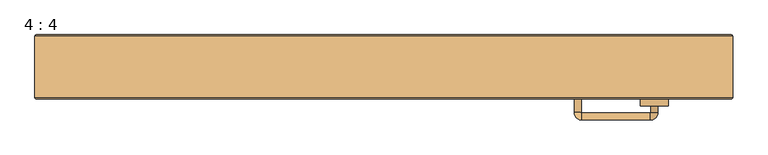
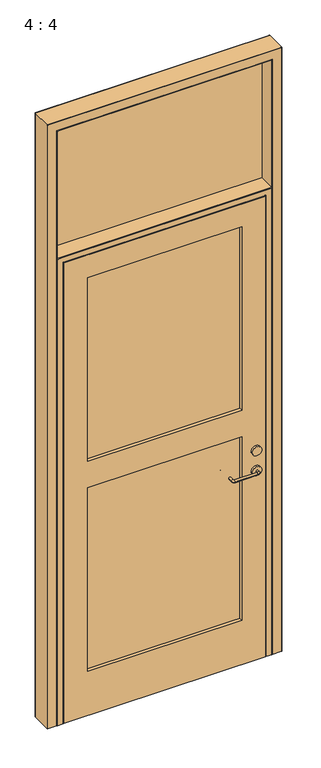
"""IFC4 building model written with IfcOpenShell, lengths in millimetres: door geometry, 4 : 4."""

from ifc_helpers import new_model, si_unit, point, frame, frame_2d, origin, place, context, project, spatial, polyline, circle_curve, ellipse_curve, trimmed, segment, composite_curve, outline, extrude, source, transform, mapped, element, save
from ifc_brep_helpers import plane_surface, cylinder_surface, revolved_surface, advanced_brep


def door_4_4_9f9d6679(model_context):
    return source(origin(), model_context, "Body", "SolidModel", [
        advanced_brep(
        [(272.9853306, 0.0, 855.0000042), (282.9853306, 0.0, 855.0000042), (282.9853306, 40.0, 855.0000042), (272.9853306, 40.0, 855.0000042), (392.9183216, 0.0, 855.0000042), (382.9183216, 0.0, 855.0000042), (382.9183216, -19.0, 855.0000042), (392.9183216, -19.0, 855.0000042), (381.9183216, -20.0, 855.0000042), (381.9183216, -30.0, 855.0000042), (283.9853306, -20.0, 855.0000042), (283.9853306, -30.0, 855.0000042), (282.9853306, -19.0, 855.0000042), (272.9853306, -19.0, 855.0000042), (282.9853306, 59.0, 855.0000042), (272.9853306, 59.0, 855.0000042), (283.9853306, 60.0, 855.0000042), (283.9853306, 70.0, 855.0000042), (381.9183216, 60.0, 855.0000042), (381.9183216, 70.0, 855.0000042), (382.9183216, 59.0, 855.0000042), (392.9183216, 59.0, 855.0000042)],
        [
            (0, 1, circle_curve(frame((277.9853306, 0.0, 855.0000042), z_axis=(0.0, 1.0, 0.0), x_axis=(-1.0, 0.0, 0.0)), 5.0)),
            (1, 0, circle_curve(frame((277.9853306, 0.0, 855.0000042), z_axis=(0.0, 1.0, 0.0), x_axis=(-1.0, 0.0, 0.0)), 5.0)),
            (2, 3, circle_curve(frame((277.9853306, 40.0, 855.0000042), z_axis=(0.0, -1.0, 0.0), x_axis=(-1.0, 0.0, 0.0)), 5.0)),
            (3, 2, circle_curve(frame((277.9853306, 40.0, 855.0000042), z_axis=(0.0, -1.0, 0.0), x_axis=(-1.0, 0.0, 0.0)), 5.0)),
            (4, 5, circle_curve(frame((387.9183216, 0.0, 855.0000042), z_axis=(0.0, -1.0, 0.0), x_axis=(1.0, 0.0, 0.0)), 5.0)),
            (5, 6),
            (6, 7, circle_curve(frame((387.9183216, -19.0, 855.0000042), z_axis=(0.0, 1.0, 0.0), x_axis=(1.0, 0.0, 0.0)), 5.0)),
            (7, 4),
            (5, 4, circle_curve(frame((387.9183216, 0.0, 855.0000042), z_axis=(0.0, -1.0, 0.0), x_axis=(1.0, 0.0, 0.0)), 5.0)),
            (7, 6, circle_curve(frame((387.9183216, -19.0, 855.0000042), z_axis=(0.0, 1.0, 0.0), x_axis=(1.0, 0.0, 0.0)), 5.0)),
            (6, 8, circle_curve(frame((381.9183216, -19.0, 855.0000042), z_axis=(0.0, 0.0, -1.0), x_axis=(1.0, 0.0, 0.0)), 1.0)),
            (8, 9, circle_curve(frame((381.9183216, -25.0, 855.0000042), z_axis=(1.0, 0.0, 0.0), x_axis=(0.0, -1.0, 0.0)), 5.0)),
            (9, 7, circle_curve(frame((381.9183216, -19.0, 855.0000042), z_axis=(0.0, 0.0, 1.0), x_axis=(1.0, 0.0, 0.0)), 11.0)),
            (9, 8, circle_curve(frame((381.9183216, -25.0, 855.0000042), z_axis=(1.0, 0.0, 0.0), x_axis=(0.0, -1.0, 0.0)), 5.0)),
            (8, 10),
            (10, 11, circle_curve(frame((283.9853306, -25.0, 855.0000042), z_axis=(1.0, 0.0, 0.0), x_axis=(0.0, -1.0, 0.0)), 5.0)),
            (11, 9),
            (11, 10, circle_curve(frame((283.9853306, -25.0, 855.0000042), z_axis=(1.0, 0.0, 0.0), x_axis=(0.0, -1.0, 0.0)), 5.0)),
            (10, 12, circle_curve(frame((283.9853306, -19.0, 855.0000042), z_axis=(0.0, 0.0, -1.0), x_axis=(0.0, -1.0, 0.0)), 1.0)),
            (12, 13, circle_curve(frame((277.9853306, -19.0, 855.0000042), z_axis=(0.0, -1.0, 0.0), x_axis=(-1.0, 0.0, 0.0)), 5.0)),
            (13, 11, circle_curve(frame((283.9853306, -19.0, 855.0000042), z_axis=(0.0, 0.0, 1.0), x_axis=(0.0, -1.0, 0.0)), 11.0)),
            (13, 12, circle_curve(frame((277.9853306, -19.0, 855.0000042), z_axis=(0.0, -1.0, 0.0), x_axis=(-1.0, 0.0, 0.0)), 5.0)),
            (12, 1),
            (0, 13),
            (14, 15, circle_curve(frame((277.9853306, 59.0, 855.0000042), z_axis=(0.0, -1.0, 0.0), x_axis=(-1.0, 0.0, 0.0)), 5.0)),
            (15, 3),
            (2, 14),
            (15, 14, circle_curve(frame((277.9853306, 59.0, 855.0000042), z_axis=(0.0, -1.0, 0.0), x_axis=(-1.0, 0.0, 0.0)), 5.0)),
            (14, 16, circle_curve(frame((283.9853306, 59.0, 855.0000042), z_axis=(0.0, 0.0, -1.0), x_axis=(-1.0, 0.0, 0.0)), 1.0)),
            (16, 17, circle_curve(frame((283.9853306, 65.0, 855.0000042), z_axis=(-1.0, 0.0, 0.0), x_axis=(0.0, 1.0, 0.0)), 5.0)),
            (17, 15, circle_curve(frame((283.9853306, 59.0, 855.0000042), z_axis=(0.0, 0.0, 1.0), x_axis=(-1.0, 0.0, 0.0)), 11.0)),
            (17, 16, circle_curve(frame((283.9853306, 65.0, 855.0000042), z_axis=(-1.0, 0.0, 0.0), x_axis=(0.0, 1.0, 0.0)), 5.0)),
            (16, 18),
            (18, 19, circle_curve(frame((381.9183216, 65.0, 855.0000042), z_axis=(-1.0, 0.0, 0.0), x_axis=(0.0, 1.0, 0.0)), 5.0)),
            (19, 17),
            (19, 18, circle_curve(frame((381.9183216, 65.0, 855.0000042), z_axis=(-1.0, 0.0, 0.0), x_axis=(0.0, 1.0, 0.0)), 5.0)),
            (18, 20, circle_curve(frame((381.9183216, 59.0, 855.0000042), z_axis=(0.0, 0.0, -1.0), x_axis=(0.0, 1.0, 0.0)), 1.0)),
            (20, 21, circle_curve(frame((387.9183216, 59.0, 855.0000042), z_axis=(0.0, 1.0, 0.0), x_axis=(1.0, 0.0, 0.0)), 5.0)),
            (21, 19, circle_curve(frame((381.9183216, 59.0, 855.0000042), z_axis=(0.0, 0.0, 1.0), x_axis=(0.0, 1.0, 0.0)), 11.0)),
            (21, 20, circle_curve(frame((387.9183216, 59.0, 855.0000042), z_axis=(0.0, 1.0, 0.0), x_axis=(1.0, 0.0, 0.0)), 5.0)),
            (4, 21),
            (20, 5),
        ],
        [
            plane_surface(frame((428.0, 0.0, 0.0), z_axis=(0.0, 1.0, 0.0), x_axis=(0.0, 0.0, 1.0))),
            plane_surface(frame((428.0, 40.0, 0.0), z_axis=(0.0, -1.0, 0.0), x_axis=(0.0, 0.0, 1.0))),
            cylinder_surface(frame((387.9183216, 0.0, 855.0000042), z_axis=(0.0, 1.0, 0.0), x_axis=(1.0, 0.0, 0.0)), 5.0),
            revolved_surface(trimmed(ellipse_curve(frame((387.9183216, -19.0, 855.0000042), z_axis=(0.0, 1.0, 0.0), x_axis=(1.0, 0.0, 0.0)), 5.0, 5.0), [point((382.9183216, -19.0, 855.0000042))], [point((392.9183216, -19.0, 855.0000042))], True, "CARTESIAN"), (381.9183216, -19.0, 0.0), (0.0, 0.0, -1.0)),
            revolved_surface(trimmed(ellipse_curve(frame((387.9183216, -19.0, 855.0000042), z_axis=(0.0, 1.0, 0.0), x_axis=(1.0, 0.0, 0.0)), 5.0, 5.0), [point((392.9183216, -19.0, 855.0000042))], [point((382.9183216, -19.0, 855.0000042))], True, "CARTESIAN"), (381.9183216, -19.0, 0.0), (0.0, 0.0, -1.0)),
            cylinder_surface(frame((381.9183216, -25.0, 855.0000042), z_axis=(1.0, 0.0, 0.0), x_axis=(0.0, -1.0, 0.0)), 5.0),
            revolved_surface(trimmed(ellipse_curve(frame((283.9853306, -25.0, 855.0000042), z_axis=(1.0, 0.0, 0.0), x_axis=(0.0, -1.0, 0.0)), 5.0, 5.0), [point((283.9853306, -20.0, 855.0000042))], [point((283.9853306, -30.0, 855.0000042))], True, "CARTESIAN"), (283.9853306, -19.0, 0.0), (0.0, 0.0, -1.0)),
            revolved_surface(trimmed(ellipse_curve(frame((283.9853306, -25.0, 855.0000042), z_axis=(1.0, 0.0, 0.0), x_axis=(0.0, -1.0, 0.0)), 5.0, 5.0), [point((283.9853306, -30.0, 855.0000042))], [point((283.9853306, -20.0, 855.0000042))], True, "CARTESIAN"), (283.9853306, -19.0, 0.0), (0.0, 0.0, -1.0)),
            cylinder_surface(frame((277.9853306, -19.0, 855.0000042), z_axis=(0.0, -1.0, 0.0), x_axis=(-1.0, 0.0, 0.0)), 5.0),
            cylinder_surface(frame((277.9853306, 0.0, 855.0000042), z_axis=(0.0, -1.0, 0.0), x_axis=(-1.0, 0.0, 0.0)), 5.0),
            revolved_surface(trimmed(ellipse_curve(frame((277.9853306, 59.0, 855.0000042), z_axis=(0.0, -1.0, 0.0), x_axis=(-1.0, 0.0, 0.0)), 5.0, 5.0), [point((282.9853306, 59.0, 855.0000042))], [point((272.9853306, 59.0, 855.0000042))], True, "CARTESIAN"), (283.9853306, 59.0, 0.0), (0.0, 0.0, -1.0)),
            revolved_surface(trimmed(ellipse_curve(frame((277.9853306, 59.0, 855.0000042), z_axis=(0.0, -1.0, 0.0), x_axis=(-1.0, 0.0, 0.0)), 5.0, 5.0), [point((272.9853306, 59.0, 855.0000042))], [point((282.9853306, 59.0, 855.0000042))], True, "CARTESIAN"), (283.9853306, 59.0, 0.0), (0.0, 0.0, -1.0)),
            cylinder_surface(frame((283.9853306, 65.0, 855.0000042), z_axis=(-1.0, 0.0, 0.0), x_axis=(0.0, 1.0, 0.0)), 5.0),
            revolved_surface(trimmed(ellipse_curve(frame((381.9183216, 65.0, 855.0000042), z_axis=(-1.0, 0.0, 0.0), x_axis=(0.0, 1.0, 0.0)), 5.0, 5.0), [point((381.9183216, 60.0, 855.0000042))], [point((381.9183216, 70.0, 855.0000042))], True, "CARTESIAN"), (381.9183216, 59.0, 0.0), (0.0, 0.0, -1.0)),
            revolved_surface(trimmed(ellipse_curve(frame((381.9183216, 65.0, 855.0000042), z_axis=(-1.0, 0.0, 0.0), x_axis=(0.0, 1.0, 0.0)), 5.0, 5.0), [point((381.9183216, 70.0, 855.0000042))], [point((381.9183216, 60.0, 855.0000042))], True, "CARTESIAN"), (381.9183216, 59.0, 0.0), (0.0, 0.0, -1.0)),
            cylinder_surface(frame((387.9183216, 59.0, 855.0000042), z_axis=(0.0, 1.0, 0.0), x_axis=(1.0, 0.0, 0.0)), 5.0),
        ],
        [
            (0, [[1, 2]]),
            (1, [[3, 4]]),
            (2, [[5, 6, 7, 8]]),
            (2, [[-6, 9, -8, 10]]),
            (3, [[-7, 11, 12, 13]]),
            (4, [[-10, -13, 14, -11]]),
            (5, [[-12, 15, 16, 17]]),
            (5, [[-14, -17, 18, -15]]),
            (6, [[-16, 19, 20, 21]]),
            (7, [[-18, -21, 22, -19]]),
            (8, [[-20, 23, -1, 24]]),
            (8, [[-22, -24, -2, -23]]),
            (9, [[25, 26, -3, 27]]),
            (9, [[28, -27, -4, -26]]),
            (10, [[-25, 29, 30, 31]]),
            (11, [[-28, -31, 32, -29]]),
            (12, [[-30, 33, 34, 35]]),
            (12, [[-32, -35, 36, -33]]),
            (13, [[-34, 37, 38, 39]]),
            (14, [[-36, -39, 40, -37]]),
            (15, [[-5, 41, -38, 42]]),
            (15, [[-9, -42, -40, -41]]),
        ],
    ),
        extrude(outline(polyline([(327.9573841, 14.0), (-328.0426159, 14.0), (-328.0426159, 26.0), (327.9573841, 26.0), (327.9573841, 14.0)])), frame((0.0, 0.0, 1145.0), z_axis=(0.0, 0.0, 1.0), x_axis=(1.0, 0.0, 0.0)), (0.0, 0.0, 1.0), 825.0),
        extrude(outline(polyline([(327.9573841, 14.0), (-328.0426159, 14.0), (-328.0426159, 26.0), (327.9573841, 26.0), (327.9573841, 14.0)])), frame((0.0, 0.0, 200.0), z_axis=(0.0, 0.0, 1.0), x_axis=(1.0, 0.0, 0.0)), (0.0, 0.0, 1.0), 825.0),
        extrude(outline(polyline([(2072.0, 427.9573841), (2072.0, -428.0), (0.0, -428.0), (0.0, 427.9573841), (2072.0, 427.9573841)]), holes=[polyline([(1970.0, -328.0426159), (1970.0, 327.9573841), (1145.0, 327.9573841), (1145.0, -328.0426159), (1970.0, -328.0426159)]), polyline([(200.0, -328.0426159), (1025.0, -328.0426159), (1025.0, 327.9573841), (200.0, 327.9573841), (200.0, -328.0426159)])]), frame((0.0, 0.0, 0.0), z_axis=(0.0, 1.0, 0.0), x_axis=(0.0, 0.0, 1.0)), (0.0, 0.0, 1.0), 40.0),
        extrude(outline(polyline([(-458.0, 85.5), (458.0, 85.5), (458.0, 74.5), (-458.0, 74.5), (-458.0, 85.5)])), frame((0.0, 0.0, 2100.0), z_axis=(0.0, 0.0, 1.0), x_axis=(1.0, 0.0, 0.0)), (0.0, 0.0, 1.0), 574.0),
        advanced_brep(
        [(498.0, 0.0, 0.0), (460.0, 0.0, 0.0), (458.0, 2.0, 0.0), (458.0, 90.0, 0.0), (460.0, 92.0, 0.0), (498.0, 92.0, 0.0), (500.0, 90.0, 0.0), (500.0, 2.0, 0.0), (498.0, 0.0, 2714.0), (-498.0, 0.0, 2714.0), (-498.0, 0.0, 0.0), (-460.0, 0.0, 0.0), (-460.0, 0.0, 2676.0), (460.0, 0.0, 2676.0), (458.0, 2.0, 2674.0), (458.0, 90.0, 2674.0), (460.0, 92.0, 2676.0), (-460.0, 92.0, 2676.0), (-460.0, 92.0, 0.0), (-498.0, 92.0, 0.0), (-498.0, 92.0, 2714.0), (498.0, 92.0, 2714.0), (500.0, 90.0, 2716.0), (500.0, 2.0, 2716.0), (-458.0, 2.0, 2674.0), (-458.0, 90.0, 2674.0), (-500.0, 90.0, 2716.0), (-500.0, 2.0, 2716.0), (-500.0, 2.0, 0.0), (-500.0, 90.0, 0.0), (-458.0, 90.0, 0.0), (-458.0, 2.0, 0.0)],
        [
            (0, 1),
            (1, 2, circle_curve(frame((460.0, 2.0, 0.0), z_axis=(0.0, 0.0, -1.0), x_axis=(1.0, 0.0, 0.0)), 2.0)),
            (2, 3),
            (3, 4, circle_curve(frame((460.0, 90.0, 0.0), z_axis=(0.0, 0.0, -1.0), x_axis=(1.0, 0.0, 0.0)), 2.0)),
            (4, 5),
            (5, 6, circle_curve(frame((498.0, 90.0, 0.0), z_axis=(0.0, 0.0, -1.0), x_axis=(1.0, 0.0, 0.0)), 2.0)),
            (6, 7),
            (7, 0, circle_curve(frame((498.0, 2.0, 0.0), z_axis=(0.0, 0.0, -1.0), x_axis=(1.0, 0.0, 0.0)), 2.0)),
            (0, 8),
            (8, 9),
            (9, 10),
            (10, 11),
            (11, 12),
            (12, 13),
            (13, 1),
            (2, 14),
            (14, 15),
            (15, 3),
            (4, 16),
            (16, 17),
            (17, 18),
            (18, 19),
            (19, 20),
            (20, 21),
            (21, 5),
            (6, 22),
            (22, 23),
            (23, 7),
            (14, 24),
            (24, 25),
            (25, 15),
            (22, 26),
            (26, 27),
            (27, 23),
            (10, 28, circle_curve(frame((-498.0, 2.0, 0.0), z_axis=(0.0, 0.0, -1.0), x_axis=(-1.0, 0.0, 0.0)), 2.0)),
            (28, 29),
            (29, 19, circle_curve(frame((-498.0, 90.0, 0.0), z_axis=(0.0, 0.0, -1.0), x_axis=(-1.0, 0.0, 0.0)), 2.0)),
            (18, 30, circle_curve(frame((-460.0, 90.0, 0.0), z_axis=(0.0, 0.0, -1.0), x_axis=(-1.0, 0.0, 0.0)), 2.0)),
            (30, 31),
            (31, 11, circle_curve(frame((-460.0, 2.0, 0.0), z_axis=(0.0, 0.0, -1.0), x_axis=(-1.0, 0.0, 0.0)), 2.0)),
            (24, 31),
            (30, 25),
            (26, 29),
            (28, 27),
            (13, 14, ellipse_curve(frame((460.0, 2.0, 2676.0), z_axis=(0.7071067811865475, 0.0, -0.7071067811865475), x_axis=(-0.7071067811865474, 0.0, -0.7071067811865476)), 2.8284271, 2.0)),
            (15, 16, ellipse_curve(frame((460.0, 90.0, 2676.0), z_axis=(0.7071067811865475, 0.0, -0.7071067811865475), x_axis=(-0.7071067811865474, 0.0, -0.7071067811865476)), 2.8284271, 2.0)),
            (21, 22, ellipse_curve(frame((498.0, 90.0, 2714.0), z_axis=(0.7071067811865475, 0.0, -0.7071067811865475), x_axis=(-0.7071067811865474, 0.0, -0.7071067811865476)), 2.8284271, 2.0)),
            (23, 8, ellipse_curve(frame((498.0, 2.0, 2714.0), z_axis=(0.7071067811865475, 0.0, -0.7071067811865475), x_axis=(-0.7071067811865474, 0.0, -0.7071067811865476)), 2.8284271, 2.0)),
            (12, 24, ellipse_curve(frame((-460.0, 2.0, 2676.0), z_axis=(0.7071067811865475, 0.0, 0.7071067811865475), x_axis=(0.7071067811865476, 0.0, -0.7071067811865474)), 2.8284271, 2.0)),
            (25, 17, ellipse_curve(frame((-460.0, 90.0, 2676.0), z_axis=(0.7071067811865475, 0.0, 0.7071067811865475), x_axis=(0.7071067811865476, 0.0, -0.7071067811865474)), 2.8284271, 2.0)),
            (20, 26, ellipse_curve(frame((-498.0, 90.0, 2714.0), z_axis=(0.7071067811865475, 0.0, 0.7071067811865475), x_axis=(0.7071067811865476, 0.0, -0.7071067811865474)), 2.8284271, 2.0)),
            (27, 9, ellipse_curve(frame((-498.0, 2.0, 2714.0), z_axis=(0.7071067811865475, 0.0, 0.7071067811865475), x_axis=(0.7071067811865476, 0.0, -0.7071067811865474)), 2.8284271, 2.0)),
        ],
        [
            plane_surface(frame((500.0, 0.0, 0.0), z_axis=(0.0, 0.0, -1.0), x_axis=(0.0, 1.0, 0.0))),
            plane_surface(frame((498.0, 0.0, 0.0), z_axis=(0.0, -1.0, 0.0), x_axis=(0.0, 0.0, 1.0))),
            plane_surface(frame((458.0, 2.0, 0.0), z_axis=(-1.0, 0.0, 0.0), x_axis=(0.0, 0.0, 1.0))),
            plane_surface(frame((460.0, 92.0, 0.0), z_axis=(0.0, 1.0, 0.0), x_axis=(0.0, 0.0, 1.0))),
            plane_surface(frame((500.0, 90.0, 0.0), z_axis=(1.0, 0.0, 0.0), x_axis=(0.0, 0.0, 1.0))),
            plane_surface(frame((458.0, 2.0, 2674.0), z_axis=(0.0, 0.0, -1.0), x_axis=(-1.0, 0.0, 0.0))),
            plane_surface(frame((500.0, 90.0, 2716.0), z_axis=(0.0, 0.0, 1.0), x_axis=(-1.0, 0.0, 0.0))),
            plane_surface(frame((-500.0, 0.0, 0.0), z_axis=(0.0, 0.0, -1.0), x_axis=(0.0, 1.0, 0.0))),
            plane_surface(frame((-458.0, 2.0, 2674.0), z_axis=(1.0, 0.0, 0.0), x_axis=(0.0, 0.0, -1.0))),
            plane_surface(frame((-500.0, 90.0, 2716.0), z_axis=(-1.0, 0.0, 0.0), x_axis=(0.0, 0.0, -1.0))),
            cylinder_surface(frame((460.0, 2.0, 0.0), z_axis=(0.0, 0.0, -1.0), x_axis=(1.0, 0.0, 0.0)), 2.0),
            cylinder_surface(frame((460.0, 90.0, 0.0), z_axis=(0.0, 0.0, -1.0), x_axis=(1.0, 0.0, 0.0)), 2.0),
            cylinder_surface(frame((498.0, 90.0, 0.0), z_axis=(0.0, 0.0, -1.0), x_axis=(1.0, 0.0, 0.0)), 2.0),
            cylinder_surface(frame((498.0, 2.0, 0.0), z_axis=(0.0, 0.0, -1.0), x_axis=(1.0, 0.0, 0.0)), 2.0),
            cylinder_surface(frame((500.0, 2.0, 2676.0), z_axis=(1.0, 0.0, 0.0), x_axis=(0.0, 0.0, 1.0)), 2.0),
            cylinder_surface(frame((500.0, 90.0, 2676.0), z_axis=(1.0, 0.0, 0.0), x_axis=(0.0, 0.0, 1.0)), 2.0),
            cylinder_surface(frame((500.0, 90.0, 2714.0), z_axis=(1.0, 0.0, 0.0), x_axis=(0.0, 0.0, 1.0)), 2.0),
            cylinder_surface(frame((500.0, 2.0, 2714.0), z_axis=(1.0, 0.0, 0.0), x_axis=(0.0, 0.0, 1.0)), 2.0),
            cylinder_surface(frame((-460.0, 2.0, 2716.0), z_axis=(0.0, 0.0, 1.0), x_axis=(-1.0, 0.0, 0.0)), 2.0),
            cylinder_surface(frame((-460.0, 90.0, 2716.0), z_axis=(0.0, 0.0, 1.0), x_axis=(-1.0, 0.0, 0.0)), 2.0),
            cylinder_surface(frame((-498.0, 90.0, 2716.0), z_axis=(0.0, 0.0, 1.0), x_axis=(-1.0, 0.0, 0.0)), 2.0),
            cylinder_surface(frame((-498.0, 2.0, 2716.0), z_axis=(0.0, 0.0, 1.0), x_axis=(-1.0, 0.0, 0.0)), 2.0),
        ],
        [
            (0, [[1, 2, 3, 4, 5, 6, 7, 8]]),
            (1, [[-1, 9, 10, 11, 12, 13, 14, 15]]),
            (2, [[-3, 16, 17, 18]]),
            (3, [[-5, 19, 20, 21, 22, 23, 24, 25]]),
            (4, [[-7, 26, 27, 28]]),
            (5, [[-17, 29, 30, 31]]),
            (6, [[-27, 32, 33, 34]]),
            (7, [[35, 36, 37, -22, 38, 39, 40, -12]]),
            (8, [[-30, 41, -39, 42]]),
            (9, [[-33, 43, -36, 44]]),
            (10, [[-2, -15, 45, -16]]),
            (11, [[-4, -18, 46, -19]]),
            (12, [[-6, -25, 47, -26]]),
            (13, [[-8, -28, 48, -9]]),
            (14, [[-45, -14, 49, -29]]),
            (15, [[-46, -31, 50, -20]]),
            (16, [[-47, -24, 51, -32]]),
            (17, [[-48, -34, 52, -10]]),
            (18, [[-49, -13, -40, -41]]),
            (19, [[-50, -42, -38, -21]]),
            (20, [[-51, -23, -37, -43]]),
            (21, [[-52, -44, -35, -11]]),
        ],
    ),
        advanced_brep(
        [(-456.0, 92.0, 0.0), (-433.0, 92.0, 0.0), (-431.0, 90.0, 0.0), (-431.0, 87.0, 0.0), (-421.0361518, 87.0, 0.0), (-419.0361518, 85.0, 0.0), (-419.0, 45.0, 0.0), (-421.0361518, 43.0, 0.0), (-431.0, 43.0, 0.0), (-431.0, 2.0, 0.0), (-433.0, 0.0, 0.0), (-456.0, 0.0, 0.0), (-458.0, 2.0, 0.0), (-458.0, 90.0, 0.0), (-456.0, 92.0, 2098.0), (456.0, 92.0, 2098.0), (456.0, 92.0, 0.0), (433.0, 92.0, 0.0), (433.0, 92.0, 2075.0), (-433.0, 92.0, 2075.0), (-431.0, 90.0, 2073.0), (-431.0, 87.0, 2073.0), (431.0, 87.0, 2073.0), (431.0, 87.0, 0.0), (421.0361518, 87.0, 0.0), (421.0361518, 87.0, 2063.0361518), (-421.0361518, 87.0, 2063.0361518), (-419.0361518, 85.0, 2061.0361518), (-419.0, 45.0, 2061.0), (-421.0361518, 43.0, 2063.0361518), (421.0361518, 43.0, 2063.0361518), (421.0361518, 43.0, 0.0), (431.0, 43.0, 0.0), (431.0, 43.0, 2073.0), (-431.0, 43.0, 2073.0), (-431.0, 2.0, 2073.0), (-433.0, 0.0, 2075.0), (433.0, 0.0, 2075.0), (433.0, 0.0, 0.0), (456.0, 0.0, 0.0), (456.0, 0.0, 2098.0), (-456.0, 0.0, 2098.0), (-458.0, 2.0, 2100.0), (-458.0, 90.0, 2100.0), (431.0, 90.0, 2073.0), (419.0361518, 85.0, 2061.0361518), (419.0, 45.0, 2061.0), (431.0, 2.0, 2073.0), (458.0, 2.0, 2100.0), (458.0, 90.0, 2100.0), (458.0, 90.0, 0.0), (458.0, 2.0, 0.0), (431.0, 2.0, 0.0), (419.0361518, 45.0, 0.0), (419.0, 85.0, 0.0), (431.0, 90.0, 0.0)],
        [
            (0, 1),
            (1, 2, circle_curve(frame((-433.0, 90.0, 0.0), z_axis=(0.0, 0.0, -1.0), x_axis=(0.0, 1.0, 0.0)), 2.0)),
            (2, 3),
            (3, 4),
            (4, 5, circle_curve(frame((-421.0361518, 85.0, 0.0), z_axis=(0.0, 0.0, -1.0), x_axis=(0.0, 1.0, 0.0)), 2.0)),
            (5, 6),
            (6, 7, circle_curve(frame((-421.0361518, 45.0, 0.0), z_axis=(0.0, 0.0, -1.0), x_axis=(0.0, 1.0, 0.0)), 2.0)),
            (7, 8),
            (8, 9),
            (9, 10, circle_curve(frame((-433.0, 2.0, 0.0), z_axis=(0.0, 0.0, -1.0), x_axis=(0.0, 1.0, 0.0)), 2.0)),
            (10, 11),
            (11, 12, circle_curve(frame((-456.0, 2.0, 0.0), z_axis=(0.0, 0.0, -1.0), x_axis=(0.0, 1.0, 0.0)), 2.0)),
            (12, 13),
            (13, 0, circle_curve(frame((-456.0, 90.0, 0.0), z_axis=(0.0, 0.0, -1.0), x_axis=(0.0, 1.0, 0.0)), 2.0)),
            (0, 14),
            (14, 15),
            (15, 16),
            (16, 17),
            (17, 18),
            (18, 19),
            (19, 1),
            (19, 20, ellipse_curve(frame((-433.0, 90.0, 2075.0), z_axis=(-0.7071067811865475, 0.0, -0.7071067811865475), x_axis=(0.7071067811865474, 0.0, -0.7071067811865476)), 2.8284271, 2.0)),
            (20, 2),
            (20, 21),
            (21, 3),
            (21, 22),
            (22, 23),
            (23, 24),
            (24, 25),
            (25, 26),
            (26, 4),
            (26, 27, ellipse_curve(frame((-421.0361518, 85.0, 2063.0361518), z_axis=(-0.7071067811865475, 0.0, -0.7071067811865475), x_axis=(0.7071067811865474, 0.0, -0.7071067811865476)), 2.8284271, 2.0)),
            (27, 5),
            (27, 28),
            (28, 6),
            (28, 29, ellipse_curve(frame((-421.0361518, 45.0, 2063.0361518), z_axis=(-0.7071067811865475, 0.0, -0.7071067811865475), x_axis=(0.7071067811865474, 0.0, -0.7071067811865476)), 2.8284271, 2.0)),
            (29, 7),
            (29, 30),
            (30, 31),
            (31, 32),
            (32, 33),
            (33, 34),
            (34, 8),
            (34, 35),
            (35, 9),
            (35, 36, ellipse_curve(frame((-433.0, 2.0, 2075.0), z_axis=(-0.7071067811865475, 0.0, -0.7071067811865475), x_axis=(0.7071067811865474, 0.0, -0.7071067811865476)), 2.8284271, 2.0)),
            (36, 10),
            (36, 37),
            (37, 38),
            (38, 39),
            (39, 40),
            (40, 41),
            (41, 11),
            (41, 42, ellipse_curve(frame((-456.0, 2.0, 2098.0), z_axis=(-0.7071067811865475, 0.0, -0.7071067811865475), x_axis=(0.7071067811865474, 0.0, -0.7071067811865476)), 2.8284271, 2.0)),
            (42, 12),
            (42, 43),
            (43, 13),
            (43, 14, ellipse_curve(frame((-456.0, 90.0, 2098.0), z_axis=(-0.7071067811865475, 0.0, -0.7071067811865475), x_axis=(0.7071067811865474, 0.0, -0.7071067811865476)), 2.8284271, 2.0)),
            (18, 44, ellipse_curve(frame((433.0, 90.0, 2075.0), z_axis=(-0.7071067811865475, 0.0, 0.7071067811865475), x_axis=(-0.7071067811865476, 0.0, -0.7071067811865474)), 2.8284271, 2.0)),
            (44, 20),
            (44, 22),
            (25, 45, ellipse_curve(frame((421.0361518, 85.0, 2063.0361518), z_axis=(-0.7071067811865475, 0.0, 0.7071067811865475), x_axis=(-0.7071067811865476, 0.0, -0.7071067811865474)), 2.8284271, 2.0)),
            (45, 27),
            (45, 46),
            (46, 28),
            (46, 30, ellipse_curve(frame((421.0361518, 45.0, 2063.0361518), z_axis=(-0.7071067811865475, 0.0, 0.7071067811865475), x_axis=(-0.7071067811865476, 0.0, -0.7071067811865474)), 2.8284271, 2.0)),
            (33, 47),
            (47, 35),
            (47, 37, ellipse_curve(frame((433.0, 2.0, 2075.0), z_axis=(-0.7071067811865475, 0.0, 0.7071067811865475), x_axis=(-0.7071067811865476, 0.0, -0.7071067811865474)), 2.8284271, 2.0)),
            (40, 48, ellipse_curve(frame((456.0, 2.0, 2098.0), z_axis=(-0.7071067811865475, 0.0, 0.7071067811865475), x_axis=(-0.7071067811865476, 0.0, -0.7071067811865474)), 2.8284271, 2.0)),
            (48, 42),
            (48, 49),
            (49, 43),
            (49, 15, ellipse_curve(frame((456.0, 90.0, 2098.0), z_axis=(-0.7071067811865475, 0.0, 0.7071067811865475), x_axis=(-0.7071067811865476, 0.0, -0.7071067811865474)), 2.8284271, 2.0)),
            (16, 50, circle_curve(frame((456.0, 90.0, 0.0), z_axis=(0.0, 0.0, -1.0), x_axis=(0.0, 1.0, 0.0)), 2.0)),
            (50, 51),
            (51, 39, circle_curve(frame((456.0, 2.0, 0.0), z_axis=(0.0, 0.0, -1.0), x_axis=(0.0, 1.0, 0.0)), 2.0)),
            (38, 52, circle_curve(frame((433.0, 2.0, 0.0), z_axis=(0.0, 0.0, -1.0), x_axis=(0.0, 1.0, 0.0)), 2.0)),
            (52, 32),
            (31, 53, circle_curve(frame((421.0361518, 45.0, 0.0), z_axis=(0.0, 0.0, -1.0), x_axis=(0.0, 1.0, 0.0)), 2.0)),
            (53, 54),
            (54, 24, circle_curve(frame((421.0361518, 85.0, 0.0), z_axis=(0.0, 0.0, -1.0), x_axis=(0.0, 1.0, 0.0)), 2.0)),
            (23, 55),
            (55, 17, circle_curve(frame((433.0, 90.0, 0.0), z_axis=(0.0, 0.0, -1.0), x_axis=(0.0, 1.0, 0.0)), 2.0)),
            (55, 44),
            (54, 45),
            (53, 46),
            (52, 47),
            (51, 48),
            (50, 49),
        ],
        [
            plane_surface(frame((-458.0, 0.0, 0.0), z_axis=(0.0, 0.0, -1.0), x_axis=(0.0, 1.0, 0.0))),
            plane_surface(frame((-456.0, 92.0, 0.0), z_axis=(0.0, 1.0, 0.0), x_axis=(0.0, 0.0, 1.0))),
            cylinder_surface(frame((-433.0, 90.0, 0.0), z_axis=(0.0, 0.0, -1.0), x_axis=(0.0, 1.0, 0.0)), 2.0),
            plane_surface(frame((-431.0, 90.0, 0.0), z_axis=(1.0, 0.0, 0.0), x_axis=(0.0, 0.0, 1.0))),
            plane_surface(frame((-431.0, 87.0, 0.0), z_axis=(0.0, 1.0, 0.0), x_axis=(0.0, 0.0, 1.0))),
            cylinder_surface(frame((-421.0361518, 85.0, 0.0), z_axis=(0.0, 0.0, -1.0), x_axis=(0.0, 1.0, 0.0)), 2.0),
            plane_surface(frame((-419.0, 85.0, 0.0), z_axis=(1.0, 0.0, 0.0), x_axis=(0.0, 0.0, 1.0))),
            cylinder_surface(frame((-421.0361518, 45.0, 0.0), z_axis=(0.0, 0.0, -1.0), x_axis=(0.0, 1.0, 0.0)), 2.0),
            plane_surface(frame((-421.0361518, 43.0, 0.0), z_axis=(0.0, -1.0, 0.0), x_axis=(0.0, 0.0, 1.0))),
            plane_surface(frame((-431.0, 43.0, 0.0), z_axis=(1.0, 0.0, 0.0), x_axis=(0.0, 0.0, 1.0))),
            cylinder_surface(frame((-433.0, 2.0, 0.0), z_axis=(0.0, 0.0, -1.0), x_axis=(0.0, 1.0, 0.0)), 2.0),
            plane_surface(frame((-433.0, 0.0, 0.0), z_axis=(0.0, -1.0, 0.0), x_axis=(0.0, 0.0, 1.0))),
            cylinder_surface(frame((-456.0, 2.0, 0.0), z_axis=(0.0, 0.0, -1.0), x_axis=(0.0, 1.0, 0.0)), 2.0),
            plane_surface(frame((-458.0, 2.0, 0.0), z_axis=(-1.0, 0.0, 0.0), x_axis=(0.0, 0.0, 1.0))),
            cylinder_surface(frame((-456.0, 90.0, 0.0), z_axis=(0.0, 0.0, -1.0), x_axis=(0.0, 1.0, 0.0)), 2.0),
            cylinder_surface(frame((-458.0, 90.0, 2075.0), z_axis=(-1.0, 0.0, 0.0), x_axis=(0.0, 1.0, 0.0)), 2.0),
            plane_surface(frame((-431.0, 90.0, 2073.0), z_axis=(0.0, 0.0, -1.0), x_axis=(1.0, 0.0, 0.0))),
            cylinder_surface(frame((-458.0, 85.0, 2063.0361518), z_axis=(-1.0, 0.0, 0.0), x_axis=(0.0, 1.0, 0.0)), 2.0),
            plane_surface(frame((-419.0, 85.0, 2061.0), z_axis=(0.0, 0.0, -1.0), x_axis=(1.0, 0.0, 0.0))),
            cylinder_surface(frame((-458.0, 45.0, 2063.0361518), z_axis=(-1.0, 0.0, 0.0), x_axis=(0.0, 1.0, 0.0)), 2.0),
            plane_surface(frame((-431.0, 43.0, 2073.0), z_axis=(0.0, 0.0, -1.0), x_axis=(1.0, 0.0, 0.0))),
            cylinder_surface(frame((-458.0, 2.0, 2075.0), z_axis=(-1.0, 0.0, 0.0), x_axis=(0.0, 1.0, 0.0)), 2.0),
            cylinder_surface(frame((-458.0, 2.0, 2098.0), z_axis=(-1.0, 0.0, 0.0), x_axis=(0.0, 1.0, 0.0)), 2.0),
            plane_surface(frame((-458.0, 2.0, 2100.0), z_axis=(0.0, 0.0, 1.0), x_axis=(1.0, 0.0, 0.0))),
            cylinder_surface(frame((-458.0, 90.0, 2098.0), z_axis=(-1.0, 0.0, 0.0), x_axis=(0.0, 1.0, 0.0)), 2.0),
            plane_surface(frame((458.0, 0.0, 0.0), z_axis=(0.0, 0.0, -1.0), x_axis=(0.0, 1.0, 0.0))),
            cylinder_surface(frame((433.0, 90.0, 2100.0), z_axis=(0.0, 0.0, 1.0), x_axis=(0.0, 1.0, 0.0)), 2.0),
            plane_surface(frame((431.0, 90.0, 2073.0), z_axis=(-1.0, 0.0, 0.0), x_axis=(0.0, 0.0, -1.0))),
            cylinder_surface(frame((421.0361518, 85.0, 2100.0), z_axis=(0.0, 0.0, 1.0), x_axis=(0.0, 1.0, 0.0)), 2.0),
            plane_surface(frame((419.0, 85.0, 2061.0), z_axis=(-1.0, 0.0, 0.0), x_axis=(0.0, 0.0, -1.0))),
            cylinder_surface(frame((421.0361518, 45.0, 2100.0), z_axis=(0.0, 0.0, 1.0), x_axis=(0.0, 1.0, 0.0)), 2.0),
            plane_surface(frame((431.0, 43.0, 2073.0), z_axis=(-1.0, 0.0, 0.0), x_axis=(0.0, 0.0, -1.0))),
            cylinder_surface(frame((433.0, 2.0, 2100.0), z_axis=(0.0, 0.0, 1.0), x_axis=(0.0, 1.0, 0.0)), 2.0),
            cylinder_surface(frame((456.0, 2.0, 2100.0), z_axis=(0.0, 0.0, 1.0), x_axis=(0.0, 1.0, 0.0)), 2.0),
            plane_surface(frame((458.0, 2.0, 2100.0), z_axis=(1.0, 0.0, 0.0), x_axis=(0.0, 0.0, -1.0))),
            cylinder_surface(frame((456.0, 90.0, 2100.0), z_axis=(0.0, 0.0, 1.0), x_axis=(0.0, 1.0, 0.0)), 2.0),
        ],
        [
            (0, [[1, 2, 3, 4, 5, 6, 7, 8, 9, 10, 11, 12, 13, 14]]),
            (1, [[-1, 15, 16, 17, 18, 19, 20, 21]]),
            (2, [[-2, -21, 22, 23]]),
            (3, [[-3, -23, 24, 25]]),
            (4, [[-4, -25, 26, 27, 28, 29, 30, 31]]),
            (5, [[-5, -31, 32, 33]]),
            (6, [[-6, -33, 34, 35]]),
            (7, [[-7, -35, 36, 37]]),
            (8, [[-8, -37, 38, 39, 40, 41, 42, 43]]),
            (9, [[-9, -43, 44, 45]]),
            (10, [[-10, -45, 46, 47]]),
            (11, [[-11, -47, 48, 49, 50, 51, 52, 53]]),
            (12, [[-12, -53, 54, 55]]),
            (13, [[-13, -55, 56, 57]]),
            (14, [[-14, -57, 58, -15]]),
            (15, [[-22, -20, 59, 60]]),
            (16, [[-24, -60, 61, -26]]),
            (17, [[-32, -30, 62, 63]]),
            (18, [[-34, -63, 64, 65]]),
            (19, [[-36, -65, 66, -38]]),
            (20, [[-44, -42, 67, 68]]),
            (21, [[-46, -68, 69, -48]]),
            (22, [[-54, -52, 70, 71]]),
            (23, [[-56, -71, 72, 73]]),
            (24, [[-58, -73, 74, -16]]),
            (25, [[75, 76, 77, -50, 78, 79, -40, 80, 81, 82, -28, 83, 84, -18]]),
            (26, [[-59, -19, -84, 85]]),
            (27, [[-61, -85, -83, -27]]),
            (28, [[-62, -29, -82, 86]]),
            (29, [[-64, -86, -81, 87]]),
            (30, [[-66, -87, -80, -39]]),
            (31, [[-67, -41, -79, 88]]),
            (32, [[-69, -88, -78, -49]]),
            (33, [[-70, -51, -77, 89]]),
            (34, [[-72, -89, -76, 90]]),
            (35, [[-74, -90, -75, -17]]),
        ],
    ),
        extrude(outline(composite_curve([segment(trimmed(circle_curve(frame_2d((944.9999958, 387.9573841)), 20.0), [point((944.9999958, 407.9573841))], [point((944.9999958, 367.9573841))], False, "CARTESIAN"), True, "CONTINUOUS"), segment(trimmed(circle_curve(frame_2d((944.9999958, 387.9573841)), 20.0), [point((944.9999958, 367.9573841))], [point((944.9999958, 407.9573841))], False, "CARTESIAN"), True, "CONTINUOUS")], self_intersect=False)), frame((0.0, -10.0, 0.0), z_axis=(0.0, 1.0, 0.0), x_axis=(0.0, 0.0, 1.0)), (0.0, 0.0, 1.0), 60.0),
        extrude(outline(composite_curve([segment(trimmed(circle_curve(frame_2d((855.0000042, 387.9183216)), 20.0), [point((855.0000042, 407.9183216))], [point((855.0000042, 367.9183216))], False, "CARTESIAN"), True, "CONTINUOUS"), segment(trimmed(circle_curve(frame_2d((855.0000042, 387.9183216)), 20.0), [point((855.0000042, 367.9183216))], [point((855.0000042, 407.9183216))], False, "CARTESIAN"), True, "CONTINUOUS")], self_intersect=False)), frame((0.0, -10.0, 0.0), z_axis=(0.0, 1.0, 0.0), x_axis=(0.0, 0.0, 1.0)), (0.0, 0.0, 1.0), 60.0),
    ])


if __name__ == "__main__":
    model = new_model("IFC4")
    model_context = context("Model", 3, world=origin())
    ifc_project = project(units=[si_unit("LENGTHUNIT", "METRE", prefix="MILLI")], contexts=[model_context])
    site = spatial("IfcSite", under=ifc_project)
    building = spatial("IfcBuilding", under=site)
    placement = place(None, origin())
    door_4_4_shape = door_4_4_9f9d6679(model_context)
    element("IfcDoor", 1, ObjectType="4 : 4", at=placement, inside=building, context=model_context, shape_type="MappedRepresentation", body=[
        mapped(door_4_4_shape, transform((0.0, 0.0, 0.0), x_axis=(1.0, 0.0, 0.0), y_axis=(0.0, 1.0, 0.0), z_axis=(0.0, 0.0, 1.0))),
    ])
    save(model, "model.ifc")
